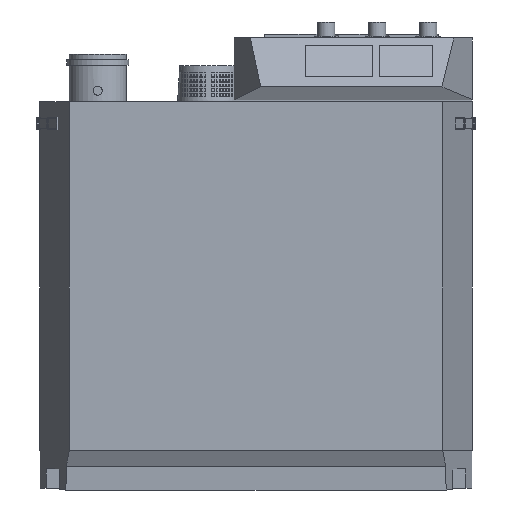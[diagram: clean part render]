
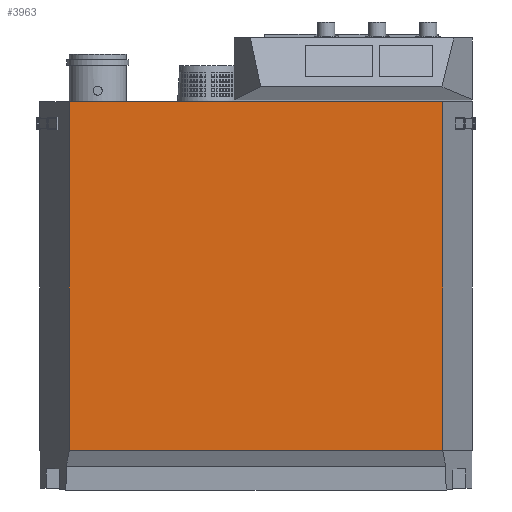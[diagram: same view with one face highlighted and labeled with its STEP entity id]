
A CAD part, front view. The second image highlights one B-rep face of the part: STEP entity #3963.
In plain terms, the highlighted planar face has unit normal (0, -1, 0).
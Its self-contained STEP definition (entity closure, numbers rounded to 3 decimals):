
#482 = DIRECTION ( 'NONE',  ( 1., 0., 0. ) ) ;
#485 = CARTESIAN_POINT ( 'NONE',  ( -514.093, 0., 415.997 ) ) ;
#533 = DIRECTION ( 'NONE',  ( 0., 0., -1. ) ) ;
#536 = CARTESIAN_POINT ( 'NONE',  ( -514.093, 0., 415.997 ) ) ;
#540 = DIRECTION ( 'NONE',  ( 0., 0., -1. ) ) ;
#543 = CARTESIAN_POINT ( 'NONE',  ( 514.121, 0., 415.997 ) ) ;
#603 = VECTOR ( 'NONE', #6318, 1000. ) ;
#1110 = VERTEX_POINT ( 'NONE', #8631 ) ;
#1111 = VERTEX_POINT ( 'NONE', #8630 ) ;
#2002 = EDGE_CURVE ( 'NONE', #10414, #7377, #8976, .T. ) ;
#3655 = EDGE_CURVE ( 'NONE', #1110, #10414, #9048, .T. ) ;
#3656 = EDGE_CURVE ( 'NONE', #1111, #7374, #9049, .T. ) ;
#3663 = EDGE_CURVE ( 'NONE', #1111, #1110, #9056, .T. ) ;
#3963 = ADVANCED_FACE ( 'NONE', ( #6631 ), #5436, .F. ) ;
#5283 = CARTESIAN_POINT ( 'NONE',  ( 514.121, 0., -545.003 ) ) ;
#5436 = PLANE ( 'NONE',  #10937 ) ;
#5437 = CARTESIAN_POINT ( 'NONE',  ( -514.093, 0., 415.997 ) ) ;
#5438 = DIRECTION ( 'NONE',  ( 0., 1., 0. ) ) ;
#5439 = DIRECTION ( 'NONE',  ( -1., 0., 0. ) ) ;
#5611 = ORIENTED_EDGE ( 'NONE', *, *, #3655, .F. ) ;
#5613 = ORIENTED_EDGE ( 'NONE', *, *, #3656, .T. ) ;
#5614 = ORIENTED_EDGE ( 'NONE', *, *, #9943, .T. ) ;
#5615 = ORIENTED_EDGE ( 'NONE', *, *, #2002, .F. ) ;
#5617 = ORIENTED_EDGE ( 'NONE', *, *, #3663, .F. ) ;
#6318 = DIRECTION ( 'NONE',  ( -1., 0., 0. ) ) ;
#6320 = CARTESIAN_POINT ( 'NONE',  ( 594.372, 0., -545.003 ) ) ;
#6631 = FACE_OUTER_BOUND ( 'NONE', #6971, .T. ) ;
#6859 = VECTOR ( 'NONE', #533, 1000. ) ;
#6874 = VECTOR ( 'NONE', #482, 1000. ) ;
#6928 = VECTOR ( 'NONE', #8504, 1000. ) ;
#6971 = EDGE_LOOP ( 'NONE', ( #5613, #5614, #5615, #5611, #5617 ) ) ;
#7353 = CARTESIAN_POINT ( 'NONE',  ( -514.093, 0., -545.003 ) ) ;
#7356 = CARTESIAN_POINT ( 'NONE',  ( 514.093, 0., -545.003 ) ) ;
#7374 = VERTEX_POINT ( 'NONE', #7353 ) ;
#7377 = VERTEX_POINT ( 'NONE', #7356 ) ;
#8503 = CARTESIAN_POINT ( 'NONE',  ( -514.093, 0., -545.003 ) ) ;
#8504 = DIRECTION ( 'NONE',  ( 1., 0., 0. ) ) ;
#8630 = CARTESIAN_POINT ( 'NONE',  ( -514.093, 0., 415.997 ) ) ;
#8631 = CARTESIAN_POINT ( 'NONE',  ( 514.121, 0., 415.997 ) ) ;
#8719 = LINE ( 'NONE', #8503, #6928 ) ;
#8976 = LINE ( 'NONE', #6320, #603 ) ;
#9048 = LINE ( 'NONE', #543, #11105 ) ;
#9049 = LINE ( 'NONE', #536, #6859 ) ;
#9056 = LINE ( 'NONE', #485, #6874 ) ;
#9943 = EDGE_CURVE ( 'NONE', #7374, #7377, #8719, .T. ) ;
#10414 = VERTEX_POINT ( 'NONE', #5283 ) ;
#10937 = AXIS2_PLACEMENT_3D ( 'NONE', #5437, #5438, #5439 ) ;
#11105 = VECTOR ( 'NONE', #540, 1000. ) ;
